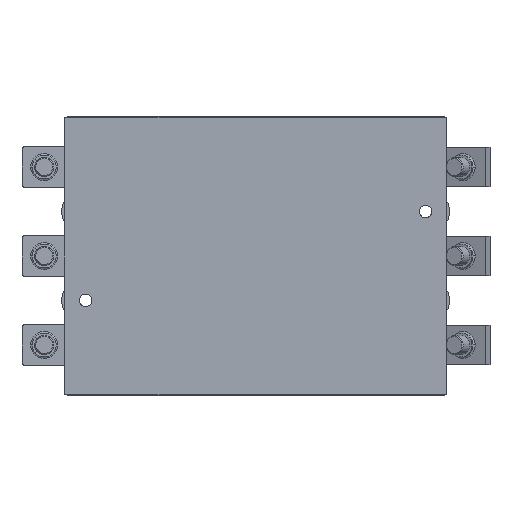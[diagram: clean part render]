
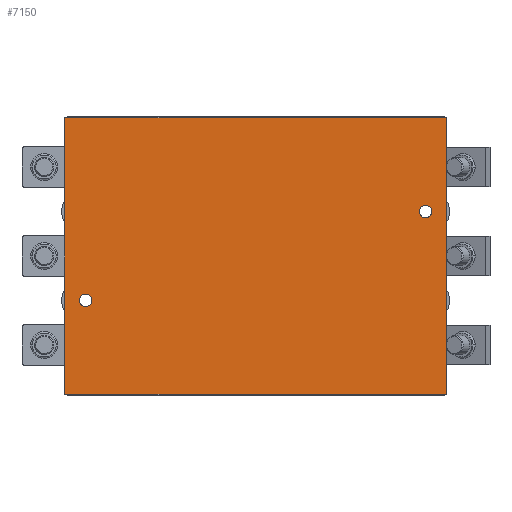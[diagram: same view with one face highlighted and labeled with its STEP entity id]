
A CAD part, left-side view. The second image highlights one B-rep face of the part: STEP entity #7150.
In plain terms, the highlighted planar face has unit normal (-1, 0, 0).
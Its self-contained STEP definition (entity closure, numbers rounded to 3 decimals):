
#3958 = VERTEX_POINT ( 'NONE', #14549 ) ;
#4192 = VERTEX_POINT ( 'NONE', #15828 ) ;
#4198 = EDGE_CURVE ( 'NONE', #4209, #4324, #15826, .T. ) ;
#4209 = VERTEX_POINT ( 'NONE', #15847 ) ;
#4212 = EDGE_CURVE ( 'NONE', #3958, #4192, #16016, .T. ) ;
#4324 = VERTEX_POINT ( 'NONE', #16225 ) ;
#5645 = EDGE_CURVE ( 'NONE', #5957, #5961, #11487, .T. ) ;
#5652 = EDGE_CURVE ( 'NONE', #5653, #5654, #11454, .T. ) ;
#5653 = VERTEX_POINT ( 'NONE', #11450 ) ;
#5654 = VERTEX_POINT ( 'NONE', #11449 ) ;
#5957 = VERTEX_POINT ( 'NONE', #20988 ) ;
#5961 = VERTEX_POINT ( 'NONE', #20983 ) ;
#6849 = EDGE_CURVE ( 'NONE', #5957, #5653, #20076, .T. ) ;
#7115 = ORIENTED_EDGE ( 'NONE', *, *, #4198, .F. ) ;
#7116 = EDGE_LOOP ( 'NONE', ( #7117, #7118 ) ) ;
#7117 = ORIENTED_EDGE ( 'NONE', *, *, #7149, .F. ) ;
#7118 = ORIENTED_EDGE ( 'NONE', *, *, #4212, .F. ) ;
#7119 = EDGE_LOOP ( 'NONE', ( #7120, #7121, #7123, #7124 ) ) ;
#7120 = ORIENTED_EDGE ( 'NONE', *, *, #5652, .T. ) ;
#7121 = ORIENTED_EDGE ( 'NONE', *, *, #7122, .F. ) ;
#7122 = EDGE_CURVE ( 'NONE', #5961, #5654, #20592, .T. ) ;
#7123 = ORIENTED_EDGE ( 'NONE', *, *, #5645, .F. ) ;
#7124 = ORIENTED_EDGE ( 'NONE', *, *, #6849, .T. ) ;
#7149 = EDGE_CURVE ( 'NONE', #4192, #3958, #21145, .T. ) ;
#7150 = ADVANCED_FACE ( 'NONE', ( #21135, #21134, #21133 ), #21172, .F. ) ;
#7151 = EDGE_LOOP ( 'NONE', ( #7152, #7115 ) ) ;
#7152 = ORIENTED_EDGE ( 'NONE', *, *, #7153, .F. ) ;
#7153 = EDGE_CURVE ( 'NONE', #4324, #4209, #21167, .T. ) ;
#11449 = CARTESIAN_POINT ( 'NONE',  ( -65.107, -39.022, -43.5 ) ) ;
#11450 = CARTESIAN_POINT ( 'NONE',  ( -65.107, 80.978, -43.5 ) ) ;
#11451 = DIRECTION ( 'NONE',  ( 0., -1., 0. ) ) ;
#11452 = VECTOR ( 'NONE', #11451, 1000. ) ;
#11453 = CARTESIAN_POINT ( 'NONE',  ( -65.107, 80.978, -43.5 ) ) ;
#11454 = LINE ( 'NONE', #11453, #11452 ) ;
#11484 = DIRECTION ( 'NONE',  ( 0., -1., 0. ) ) ;
#11485 = VECTOR ( 'NONE', #11484, 1000. ) ;
#11486 = CARTESIAN_POINT ( 'NONE',  ( -65.107, 80.978, 43.5 ) ) ;
#11487 = LINE ( 'NONE', #11486, #11485 ) ;
#14549 = CARTESIAN_POINT ( 'NONE',  ( -65.107, 76.478, -14. ) ) ;
#15823 = DIRECTION ( 'NONE',  ( -1., 0., 0. ) ) ;
#15824 = CARTESIAN_POINT ( 'NONE',  ( -65.107, -32.522, 14. ) ) ;
#15825 = AXIS2_PLACEMENT_3D ( 'NONE', #15824, #15823, #15918 ) ;
#15826 = CIRCLE ( 'NONE', #15825, 2. ) ;
#15828 = CARTESIAN_POINT ( 'NONE',  ( -65.107, 72.478, -14. ) ) ;
#15847 = CARTESIAN_POINT ( 'NONE',  ( -65.107, -30.522, 14. ) ) ;
#15918 = DIRECTION ( 'NONE',  ( 0., 1., 0. ) ) ;
#16012 = DIRECTION ( 'NONE',  ( 0., 1., 0. ) ) ;
#16013 = DIRECTION ( 'NONE',  ( -1., 0., 0. ) ) ;
#16014 = CARTESIAN_POINT ( 'NONE',  ( -65.107, 74.478, -14. ) ) ;
#16015 = AXIS2_PLACEMENT_3D ( 'NONE', #16014, #16013, #16012 ) ;
#16016 = CIRCLE ( 'NONE', #16015, 2. ) ;
#16225 = CARTESIAN_POINT ( 'NONE',  ( -65.107, -34.522, 14. ) ) ;
#20073 = DIRECTION ( 'NONE',  ( 0., 0., -1. ) ) ;
#20074 = VECTOR ( 'NONE', #20073, 1000. ) ;
#20075 = CARTESIAN_POINT ( 'NONE',  ( -65.107, 80.978, 43.5 ) ) ;
#20076 = LINE ( 'NONE', #20075, #20074 ) ;
#20589 = DIRECTION ( 'NONE',  ( 0., 0., -1. ) ) ;
#20590 = VECTOR ( 'NONE', #20589, 1000. ) ;
#20591 = CARTESIAN_POINT ( 'NONE',  ( -65.107, -39.022, 43.5 ) ) ;
#20592 = LINE ( 'NONE', #20591, #20590 ) ;
#20983 = CARTESIAN_POINT ( 'NONE',  ( -65.107, -39.022, 43.5 ) ) ;
#20988 = CARTESIAN_POINT ( 'NONE',  ( -65.107, 80.978, 43.5 ) ) ;
#21133 = FACE_OUTER_BOUND ( 'NONE', #7119, .T. ) ;
#21134 = FACE_BOUND ( 'NONE', #7116, .T. ) ;
#21135 = FACE_BOUND ( 'NONE', #7151, .T. ) ;
#21136 = DIRECTION ( 'NONE',  ( 0., 1., 0. ) ) ;
#21137 = DIRECTION ( 'NONE',  ( -1., 0., 0. ) ) ;
#21138 = CARTESIAN_POINT ( 'NONE',  ( -65.107, 74.478, -14. ) ) ;
#21139 = AXIS2_PLACEMENT_3D ( 'NONE', #21138, #21137, #21136 ) ;
#21145 = CIRCLE ( 'NONE', #21139, 2. ) ;
#21163 = DIRECTION ( 'NONE',  ( 0., 1., 0. ) ) ;
#21164 = DIRECTION ( 'NONE',  ( -1., 0., 0. ) ) ;
#21165 = CARTESIAN_POINT ( 'NONE',  ( -65.107, -32.522, 14. ) ) ;
#21166 = AXIS2_PLACEMENT_3D ( 'NONE', #21165, #21164, #21163 ) ;
#21167 = CIRCLE ( 'NONE', #21166, 2. ) ;
#21168 = DIRECTION ( 'NONE',  ( 0., 1., 0. ) ) ;
#21169 = DIRECTION ( 'NONE',  ( 1., 0., 0. ) ) ;
#21170 = CARTESIAN_POINT ( 'NONE',  ( -65.107, 80.978, 43.5 ) ) ;
#21171 = AXIS2_PLACEMENT_3D ( 'NONE', #21170, #21169, #21168 ) ;
#21172 = PLANE ( 'NONE',  #21171 ) ;
